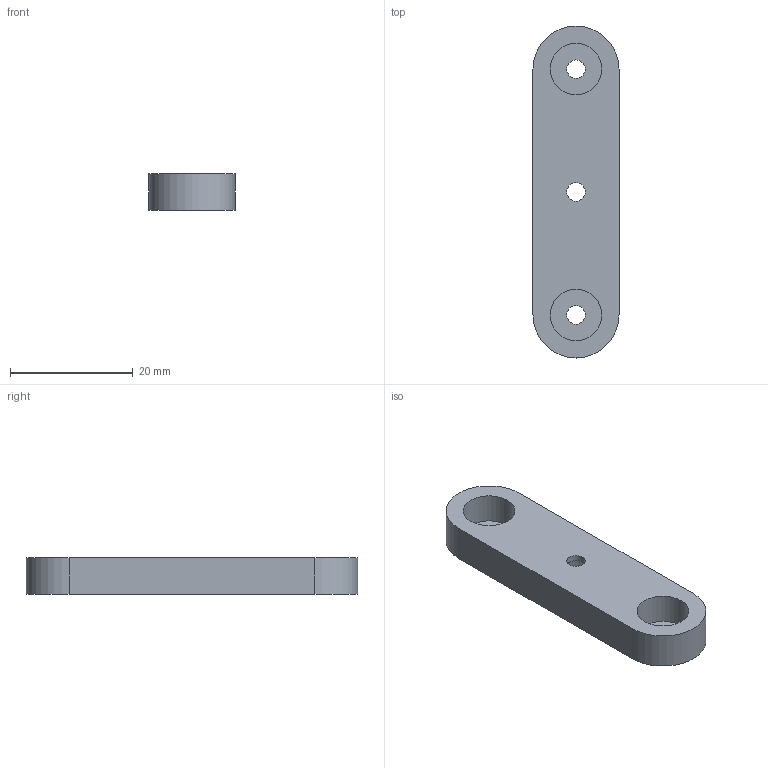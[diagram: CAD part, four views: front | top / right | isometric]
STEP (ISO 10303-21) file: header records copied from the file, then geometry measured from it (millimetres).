
FILE_DESCRIPTION(/* description */ (''),/* implementation_level */ '2;1');
FILE_NAME(/* name */ 'Link 3.step',/* time_stamp */ '2026-11-10T17:34:20+07:00',/* author */ (''),/* organization */ (''),/* preprocessor_version */ 'ST-DEVELOPER v20.2',/* originating_system */ 'Autodesk Translation Framework v15.17.0.0',/* authorisation */ '');
FILE_SCHEMA (('AUTOMOTIVE_DESIGN { 1 0 10303 214 3 1 1 }'));
Length unit declared in the file: millimetre
Products named in the file (1): 2026-11-08-14-56-45-960
Bounding box: 14 x 54 x 6 mm (x, y, z)
Volume: 3431.2 mm3; surface area: 2553.5 mm2
Topology: 1 solids, 1 shells, 15 faces, 30 edges, 20 vertices
Faces by surface type: cylinder 8, plane 7
Full cylindrical faces by diameter (mm): 3 x3, 8.4 x3
Entity records: 452 total; most frequent: DIRECTION 78, CARTESIAN_POINT 66, ORIENTED_EDGE 60, AXIS2_PLACEMENT_3D 32, EDGE_CURVE 30, EDGE_LOOP 24, VERTEX_POINT 20, CIRCLE 16
